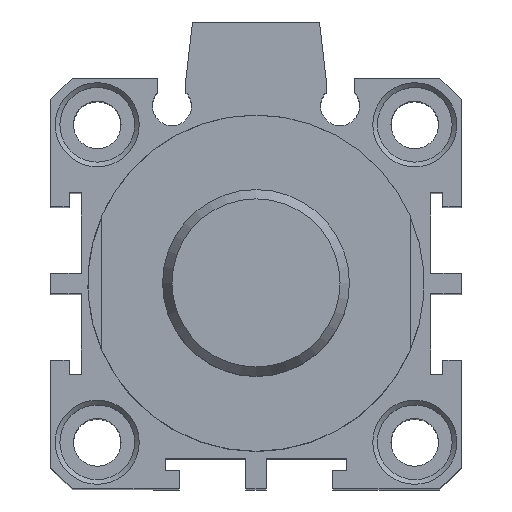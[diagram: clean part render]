
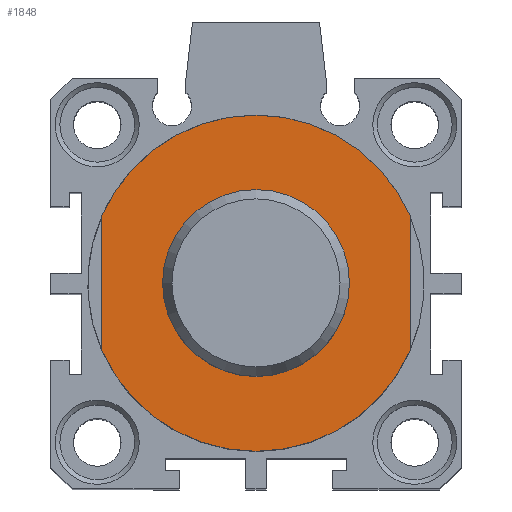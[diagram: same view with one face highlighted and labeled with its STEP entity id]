
A CAD part, top view. The second image highlights one B-rep face of the part: STEP entity #1848.
In plain terms, the highlighted planar face has unit normal (0, 0, 1).
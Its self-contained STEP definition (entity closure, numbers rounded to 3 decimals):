
#1695=CARTESIAN_POINT('',(-3.726,9.88,83.0));
#1696=VERTEX_POINT('',#1695);
#1697=CARTESIAN_POINT('',(-3.726,-0.12,83.0));
#1698=DIRECTION('',(0.0,0.0,-1.0));
#1699=DIRECTION('',(0.0,1.0,0.0));
#1700=AXIS2_PLACEMENT_3D('',#1697,#1698,#1699);
#1701=CIRCLE('',#1700,10.0);
#1702=EDGE_CURVE('',#1696,#1696,#1701,.T.);
#1725=CARTESIAN_POINT('',(12.774,7.074,83.0));
#1726=VERTEX_POINT('',#1725);
#1733=CARTESIAN_POINT('',(12.774,-7.314,83.0));
#1734=VERTEX_POINT('',#1733);
#1735=CARTESIAN_POINT('',(12.774,-7.314,83.0));
#1736=DIRECTION('',(0.0,1.0,0.0));
#1737=VECTOR('',#1736,14.387);
#1738=LINE('',#1735,#1737);
#1739=EDGE_CURVE('',#1734,#1726,#1738,.T.);
#1781=CARTESIAN_POINT('',(-20.226,-7.314,83.0));
#1782=VERTEX_POINT('',#1781);
#1789=CARTESIAN_POINT('',(-20.226,7.074,83.0));
#1790=VERTEX_POINT('',#1789);
#1791=CARTESIAN_POINT('',(-20.226,7.074,83.0));
#1792=DIRECTION('',(0.0,-1.0,0.0));
#1793=VECTOR('',#1792,14.387);
#1794=LINE('',#1791,#1793);
#1795=EDGE_CURVE('',#1790,#1782,#1794,.T.);
#1822=CARTESIAN_POINT('',(-3.726,13.88,83.0));
#1823=DIRECTION('',(0.0,0.0,1.0));
#1824=DIRECTION('',(1.0,0.0,0.0));
#1825=AXIS2_PLACEMENT_3D('',#1822,#1823,#1824);
#1826=PLANE('',#1825);
#1827=ORIENTED_EDGE('',*,*,#1739,.T.);
#1828=CARTESIAN_POINT('',(-3.726,-0.12,83.0));
#1829=DIRECTION('',(0.0,0.0,-1.0));
#1830=DIRECTION('',(0.0,1.0,0.0));
#1831=AXIS2_PLACEMENT_3D('',#1828,#1829,#1830);
#1832=CIRCLE('',#1831,18.);
#1833=EDGE_CURVE('',#1790,#1726,#1832,.T.);
#1834=ORIENTED_EDGE('',*,*,#1833,.F.);
#1835=ORIENTED_EDGE('',*,*,#1795,.T.);
#1836=CARTESIAN_POINT('',(-3.726,-0.12,83.0));
#1837=DIRECTION('',(0.0,0.0,-1.0));
#1838=DIRECTION('',(0.0,1.0,0.0));
#1839=AXIS2_PLACEMENT_3D('',#1836,#1837,#1838);
#1840=CIRCLE('',#1839,18.);
#1841=EDGE_CURVE('',#1734,#1782,#1840,.T.);
#1842=ORIENTED_EDGE('',*,*,#1841,.F.);
#1843=EDGE_LOOP('',(#1827,#1834,#1835,#1842));
#1844=FACE_OUTER_BOUND('',#1843,.T.);
#1845=ORIENTED_EDGE('',*,*,#1702,.T.);
#1846=EDGE_LOOP('',(#1845));
#1847=FACE_BOUND('',#1846,.T.);
#1848=ADVANCED_FACE('',(#1844,#1847),#1826,.T.);
